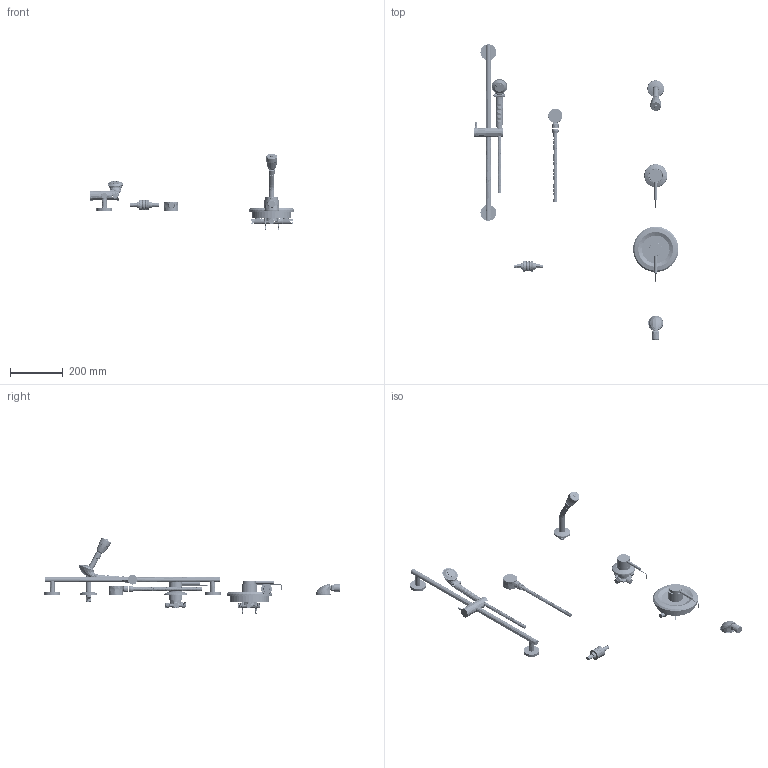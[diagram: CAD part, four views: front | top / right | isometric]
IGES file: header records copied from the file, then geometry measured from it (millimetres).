
Start section:  PTC IGES file: sh-pb5-33-041_rev030724.igs
Global section: file name: sh-pb5-33-041_rev030724.igs; native system: Creo Parametric by PTC Inc.; preprocessor: 2021184; author: rodjo; organization: Unknown; date: 20240307.120701; units: inch
Bounding box: 776.85 x 1121.26 x 290.85 mm (x, y, z)
Surface area: 474867.5 mm2 (no closed solid volume)
Topology: 0 solids, 0 shells, 1889 faces, 17266 edges, 23780 vertices
Faces by surface type: revolution 1269, bspline 619, extrusion 1
